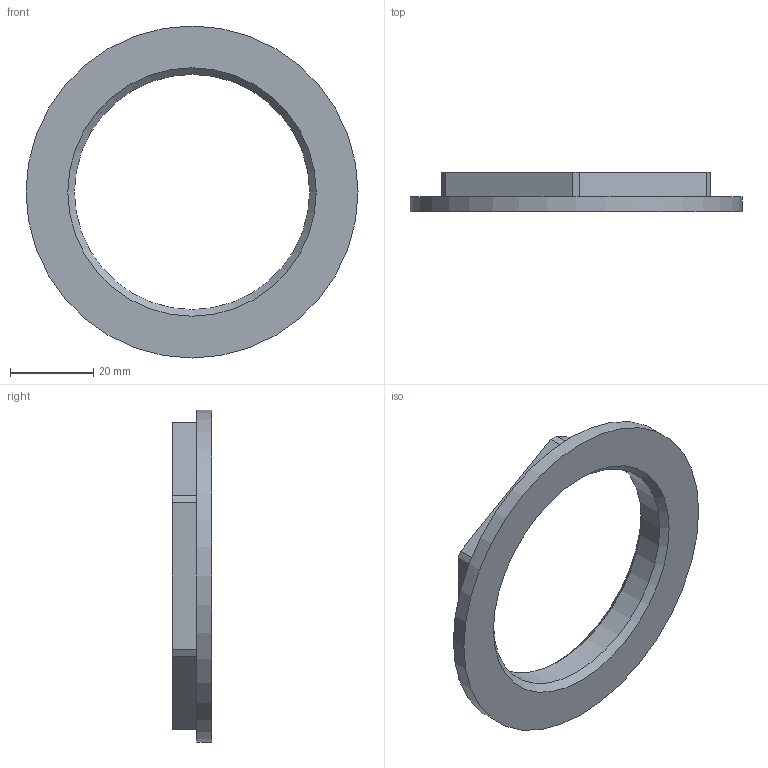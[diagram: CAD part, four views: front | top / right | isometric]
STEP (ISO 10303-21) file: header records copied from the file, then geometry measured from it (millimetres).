
FILE_DESCRIPTION(('STEP AP203'), '1');
FILE_NAME('覆.758414.006 - VTr.655.N.0009 扻艜謾骫罻', '2024-07-12T08:42:56', ('Boss'), (''), 'C3D Converter', 'C3D Toolkit', '');
FILE_SCHEMA(('CONFIG_CONTROL_DESIGN'));
Length unit declared in the file: millimetre
Products named in the file (1): ВР.758414.006
Bounding box: 80 x 9.5 x 80 mm (x, y, z)
Volume: 15251 mm3; surface area: 8597.8 mm2
Topology: 1 solids, 1 shells, 19 faces, 46 edges, 30 vertices
Faces by surface type: plane 9, cylinder 8, cone 2
Full cylindrical faces by diameter (mm): 56.657 x1, 80 x1
Entity records: 577 total; most frequent: DIRECTION 100, CARTESIAN_POINT 92, ORIENTED_EDGE 84, EDGE_CURVE 42, AXIS2_PLACEMENT_3D 38, VERTEX_POINT 30, EDGE_LOOP 26, LINE 24
